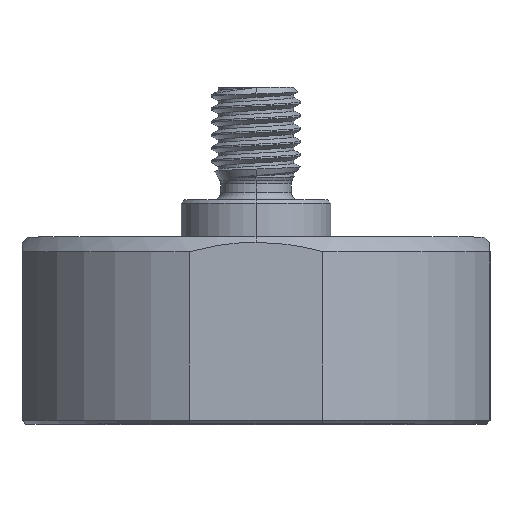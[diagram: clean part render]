
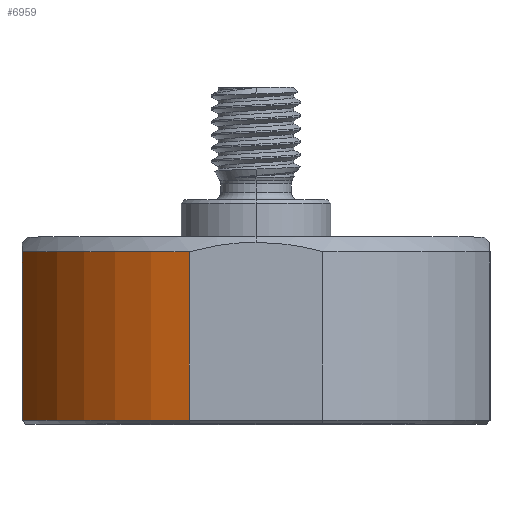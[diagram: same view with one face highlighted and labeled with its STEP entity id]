
A CAD part, top view. The second image highlights one B-rep face of the part: STEP entity #6959.
In plain terms, the highlighted cylindrical face has radius 32.5 mm (diameter 65 mm), a partial arc.
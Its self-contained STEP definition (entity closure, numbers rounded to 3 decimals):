
#1939 = EDGE_CURVE ( 'NONE', #35340, #37620, #35123, .T. ) ;
#2077 = DIRECTION ( 'NONE',  ( 0., 1., 0. ) ) ;
#3201 = CYLINDRICAL_SURFACE ( 'NONE', #24243, 32.5 ) ;
#3438 = FACE_OUTER_BOUND ( 'NONE', #15909, .T. ) ;
#5798 = CARTESIAN_POINT ( 'NONE',  ( -31.25, 23., 8.927 ) ) ;
#6613 = EDGE_CURVE ( 'NONE', #16930, #14237, #47489, .T. ) ;
#6959 = ADVANCED_FACE ( 'NONE', ( #3438 ), #3201, .T. ) ;
#8869 = CARTESIAN_POINT ( 'NONE',  ( -8.927, 52.5, 31.25 ) ) ;
#8969 = ORIENTED_EDGE ( 'NONE', *, *, #6613, .T. ) ;
#9548 = CARTESIAN_POINT ( 'NONE',  ( 0., 0.5, 0. ) ) ;
#11592 = CARTESIAN_POINT ( 'NONE',  ( -31.25, 52.5, 8.927 ) ) ;
#12726 = ORIENTED_EDGE ( 'NONE', *, *, #40035, .F. ) ;
#14237 = VERTEX_POINT ( 'NONE', #45998 ) ;
#14327 = DIRECTION ( 'NONE',  ( 0., 1., 0. ) ) ;
#15909 = EDGE_LOOP ( 'NONE', ( #8969, #39059, #36675, #12726 ) ) ;
#16688 = AXIS2_PLACEMENT_3D ( 'NONE', #9548, #24236, #23530 ) ;
#16930 = VERTEX_POINT ( 'NONE', #5798 ) ;
#19233 = DIRECTION ( 'NONE',  ( 0., 0., 1. ) ) ;
#21929 = VECTOR ( 'NONE', #22421, 1000. ) ;
#22421 = DIRECTION ( 'NONE',  ( 0., -1., 0. ) ) ;
#22852 = DIRECTION ( 'NONE',  ( 0., 1., 0. ) ) ;
#22987 = AXIS2_PLACEMENT_3D ( 'NONE', #26473, #22852, #19233 ) ;
#23530 = DIRECTION ( 'NONE',  ( 0., 0., 1. ) ) ;
#24236 = DIRECTION ( 'NONE',  ( 0., 1., 0. ) ) ;
#24243 = AXIS2_PLACEMENT_3D ( 'NONE', #29019, #14327, #36716 ) ;
#26473 = CARTESIAN_POINT ( 'NONE',  ( 0., 23., 0. ) ) ;
#26848 = CIRCLE ( 'NONE', #22987, 32.5 ) ;
#29019 = CARTESIAN_POINT ( 'NONE',  ( 0., 52.5, 0. ) ) ;
#30985 = CARTESIAN_POINT ( 'NONE',  ( -8.927, 23., 31.25 ) ) ;
#32320 = CARTESIAN_POINT ( 'NONE',  ( -8.927, 0.5, 31.25 ) ) ;
#34179 = EDGE_CURVE ( 'NONE', #14237, #35340, #37498, .T. ) ;
#35123 = LINE ( 'NONE', #8869, #42481 ) ;
#35340 = VERTEX_POINT ( 'NONE', #32320 ) ;
#36675 = ORIENTED_EDGE ( 'NONE', *, *, #1939, .T. ) ;
#36716 = DIRECTION ( 'NONE',  ( 0., 0., 1. ) ) ;
#37498 = CIRCLE ( 'NONE', #16688, 32.5 ) ;
#37620 = VERTEX_POINT ( 'NONE', #30985 ) ;
#39059 = ORIENTED_EDGE ( 'NONE', *, *, #34179, .T. ) ;
#40035 = EDGE_CURVE ( 'NONE', #16930, #37620, #26848, .T. ) ;
#42481 = VECTOR ( 'NONE', #2077, 1000. ) ;
#45998 = CARTESIAN_POINT ( 'NONE',  ( -31.25, 0.5, 8.927 ) ) ;
#47489 = LINE ( 'NONE', #11592, #21929 ) ;
